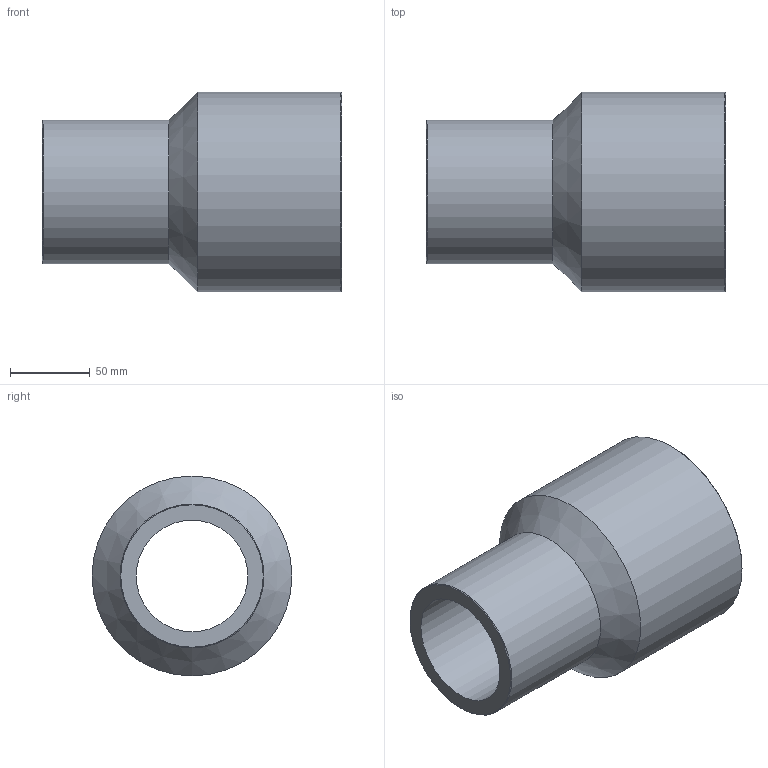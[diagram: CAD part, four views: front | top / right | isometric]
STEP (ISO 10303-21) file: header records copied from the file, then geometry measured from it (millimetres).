
FILE_DESCRIPTION(/* description */ ('Unknown'),/* implementation_level */ '2;1');
FILE_NAME(/* name */ 'RP125090G',/* time_stamp */ '2021-09-16T16:51:41+02:00',/* author */ ('Unknown'),/* organization */ ('Unknown'),/* preprocessor_version */ 'ST-DEVELOPER v16.7',/* originating_system */ 'Solid Edge',/* authorisation */ 'Unknown');
FILE_SCHEMA (('AUTOMOTIVE_DESIGN {1 0 10303 214 3 1 1}'));
Length unit declared in the file: millimetre
Products named in the file (1): RP125090G
Bounding box: 187 x 125 x 125 mm (x, y, z)
Volume: 726768.4 mm3; surface area: 123426.5 mm2
Topology: 1 solids, 1 shells, 10 faces, 19 edges, 11 vertices
Faces by surface type: cylinder 4, cone 4, plane 2
Full cylindrical faces by diameter (mm): 69.8 x1, 90 x1, 97 x1, 125 x1
Entity records: 238 total; most frequent: DIRECTION 42, CARTESIAN_POINT 31, AXIS2_PLACEMENT_3D 21, ORIENTED_EDGE 20, EDGE_LOOP 20, FACE_BOUND 20, EDGE_CURVE 10, VERTEX_POINT 10
